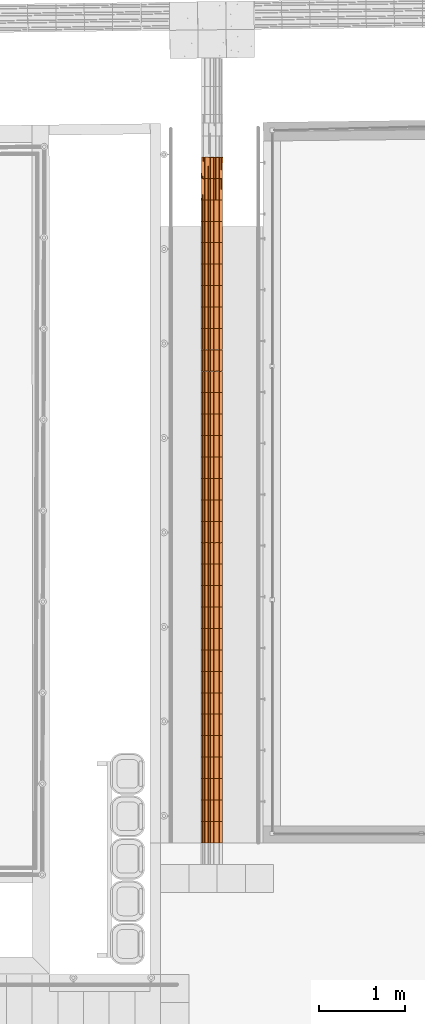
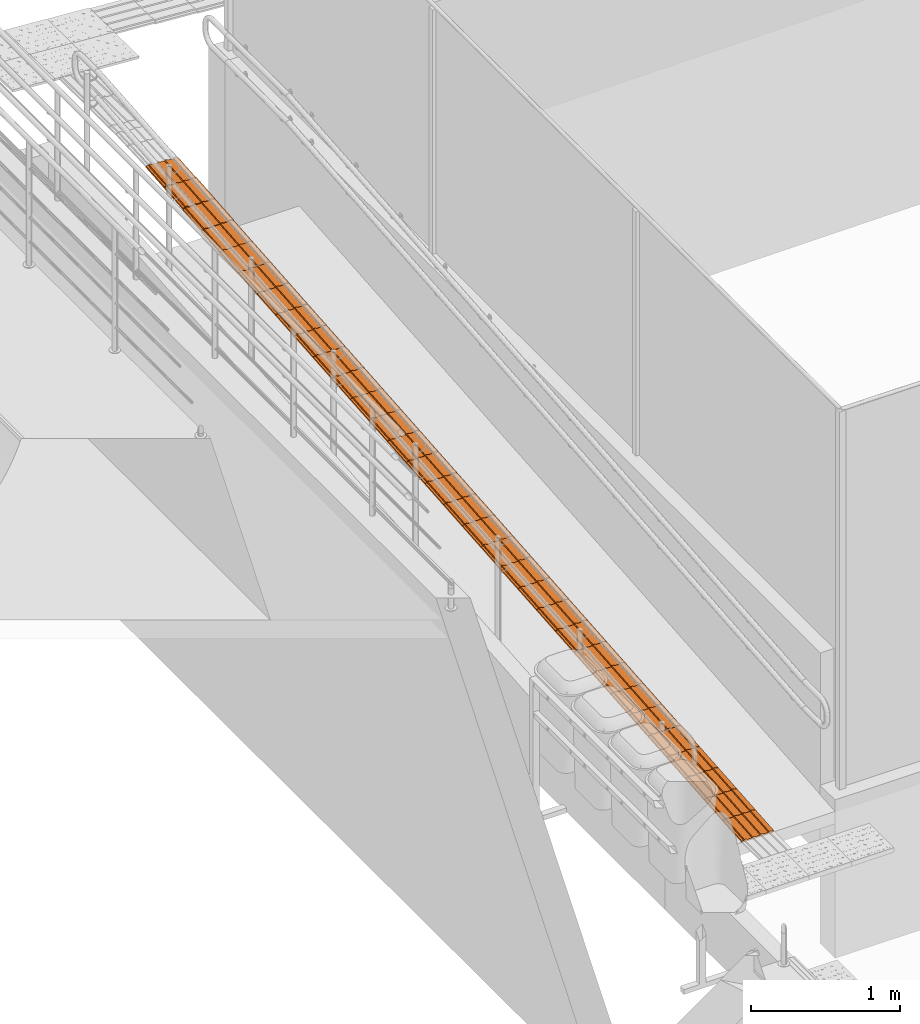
# One storey, part 177 of 237: 32 proxies.
"""IFC2X3 building model written with IfcOpenShell, lengths in millimetres."""

from ifc_helpers import new_model, entity, si_unit, converted_unit, derived_unit, money_unit, direction, frame, origin_with_axes, place, context, subcontext, project, spatial, faceted_brep, source, transform, mapped, type_object, element, save


model = new_model("IFC2X3")

# Units and contexts
model_context = context("Model", 3, precision=0.01, world=origin_with_axes(), true_north=direction((0.0, 1.0)))
body_context = subcontext(model_context, "Body", "Model", "MODEL_VIEW")
ifc_project = project(units=[si_unit("LENGTHUNIT", "METRE", prefix="MILLI"), si_unit("AREAUNIT", "SQUARE_METRE"), si_unit("VOLUMEUNIT", "CUBIC_METRE"), converted_unit("PLANEANGLEUNIT", "DEGREE", entity("IfcPlaneAngleMeasure", 0.0174532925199), si_unit("PLANEANGLEUNIT", "RADIAN"), dimensions=[0, 0, 0, 0, 0, 0, 0]), money_unit("USD"), converted_unit("TIMEUNIT", "Year", entity("IfcTimeMeasure", 31556926.0), si_unit("TIMEUNIT", "SECOND"), dimensions=[0, 0, 1, 0, 0, 0, 0]), si_unit("MASSUNIT", "GRAM", prefix="KILO"), si_unit("THERMODYNAMICTEMPERATUREUNIT", "DEGREE_CELSIUS"), si_unit("LUMINOUSINTENSITYUNIT", "LUMEN"), si_unit("ENERGYUNIT", "JOULE", prefix="MEGA"), derived_unit("THERMALCONDUCTANCEUNIT", [(si_unit("POWERUNIT", "WATT"), 1), (si_unit("LENGTHUNIT", "METRE"), -1), (si_unit("THERMODYNAMICTEMPERATUREUNIT", "KELVIN"), -1)]), derived_unit("SPECIFICHEATCAPACITYUNIT", [(si_unit("ENERGYUNIT", "JOULE"), 1), (si_unit("MASSUNIT", "GRAM", prefix="KILO"), -1), (si_unit("THERMODYNAMICTEMPERATUREUNIT", "KELVIN"), -1)]), derived_unit("MASSDENSITYUNIT", [(si_unit("MASSUNIT", "GRAM", prefix="KILO"), 1), (si_unit("VOLUMEUNIT", "CUBIC_METRE"), -1)])], contexts=[model_context])

# Site, building, storey
site_placement = place(None, origin_with_axes())
site = spatial("IfcSite", under=ifc_project, at=site_placement, Name="Local", CompositionType="ELEMENT")
building_placement = place(site_placement, origin_with_axes())
building = spatial("IfcBuilding", under=site, at=building_placement, Name="Construção", CompositionType="ELEMENT")
storey_placement = place(building_placement, origin_with_axes())
storey = spatial("IfcBuildingStorey", under=building, at=storey_placement, Name="Pavimento Térreo", CompositionType="ELEMENT", Elevation=0.0)

# Proxies
building_element_proxy_type = type_object("IfcBuildingElementProxyType", Name="FALTA", PredefinedType="NOTDEFINED")
shared_shape = source(origin_with_axes(), body_context, "Body", "Brep", [
    faceted_brep([(249.287764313, -99.3610078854, 19.28314138), (-0.245935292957, -99.3610078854, 4.02100649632), (-0.245935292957, -116.310160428, 4.02100649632), (249.287764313, -116.310160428, 19.28314138), (-0.652925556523, -95.1237197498, 10.6752384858), (248.880774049, -95.1237197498, 25.9373733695), (-0.652925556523, -78.1745672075, 10.6752384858), (-0.245935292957, -73.9372790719, 4.02100649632), (-0.245935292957, -35.8016858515, 4.02100649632), (-0.652925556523, -31.5643977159, 10.6752384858), (-0.652925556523, -14.6152451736, 10.6752384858), (-0.245935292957, -10.377957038, 4.02100649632), (-0.245935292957, 27.7576361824, 4.02100649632), (-0.652925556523, 31.994924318, 10.6752384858), (-0.652925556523, 48.9440768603, 10.6752384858), (-0.245935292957, 53.1813649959, 4.02100649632), (-0.245935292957, 91.3169582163, 4.02100649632), (-0.652925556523, 95.5542463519, 10.6752384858), (-0.652925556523, 112.503398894, 10.6752384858), (-0.245935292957, 116.74068703, 4.02100649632), (-0.245935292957, 133.689839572, 4.02100649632), (0.568045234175, 133.689839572, -9.28745748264), (0.568045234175, -116.310160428, -9.28745748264), (250.10174484, -116.310160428, 5.97467740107), (248.880774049, -78.1745672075, 25.9373733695), (250.10174484, 133.689839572, 5.97467740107), (249.287764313, 133.689839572, 19.28314138), (249.287764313, 116.74068703, 19.28314138), (248.880774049, 112.503398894, 25.9373733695), (248.880774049, 95.5542463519, 25.9373733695), (249.287764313, 91.3169582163, 19.28314138), (249.287764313, 53.1813649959, 19.28314138), (248.880774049, 48.9440768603, 25.9373733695), (248.880774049, 31.994924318, 25.9373733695), (249.287764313, 27.7576361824, 19.28314138), (249.287764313, -10.377957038, 19.28314138), (248.880774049, -14.6152451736, 25.9373733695), (248.880774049, -31.5643977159, 25.9373733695), (249.287764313, -35.8016858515, 19.28314138), (249.287764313, -73.9372790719, 19.28314138)], [[[0, 1, 2, 3]], [[4, 1, 0, 5]], [[6, 7, 8, 9, 10, 11, 12, 13, 14, 15, 16, 17, 18, 19, 20, 21, 22, 2, 1, 4]], [[2, 22, 23, 3]], [[24, 5, 0, 3, 23, 25, 26, 27, 28, 29, 30, 31, 32, 33, 34, 35, 36, 37, 38, 39]], [[6, 4, 5, 24]], [[7, 6, 24, 39]], [[38, 8, 7, 39]], [[9, 8, 38, 37]], [[10, 9, 37, 36]], [[10, 36, 35, 11]], [[11, 35, 34, 12]], [[13, 12, 34, 33]], [[14, 13, 33, 32]], [[15, 14, 32, 31]], [[15, 31, 30, 16]], [[17, 16, 30, 29]], [[18, 17, 29, 28]], [[19, 18, 28, 27]], [[20, 19, 27, 26]], [[20, 26, 25, 21]], [[22, 21, 25, 23]]]),
])
for number, where, z_axis, x_axis, name in (
    (1, (67571.980088, 32203.7978547, -3086.75660603), (0.0, -0.0220198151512, 0.999757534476), (0.0, 0.999757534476, 0.0220198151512), "Objeto-0055"),
    (2, (67571.980088, 29198.1732079, -3337.12511029), (0.0, -0.0220198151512, 0.999757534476), (0.0, 0.999757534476, 0.0220198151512), "Objeto-0055"),
    (3, (67571.980088, 32954.7601519, -3024.20145388), (0.0, -0.0220198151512, 0.999757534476), (0.0, 0.999757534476, 0.0220198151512), "Objeto-0055"),
    (4, (67571.980088, 32452.9349816, -3066.00348575), (0.0, -0.0220198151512, 0.999757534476), (0.0, 0.999757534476, 0.0220198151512), "Objeto-0055"),
    (5, (67571.980088, 32703.8475668, -3045.10246982), (0.0, -0.0220198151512, 0.999757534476), (0.0, 0.999757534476, 0.0220198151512), "Objeto-0055"),
    (6, (67571.980088, 30201.8235484, -3253.52104655), (0.0, -0.0220198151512, 0.999757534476), (0.0, 0.999757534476, 0.0220198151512), "Objeto-0055"),
    (7, (67571.980088, 30450.9606753, -3232.76792627), (0.0, -0.0220198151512, 0.999757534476), (0.0, 0.999757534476, 0.0220198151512), "Objeto-0055"),
    (8, (67571.980088, 31452.8355576, -3149.31175819), (0.0, -0.0220198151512, 0.999757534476), (0.0, 0.999757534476, 0.0220198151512), "Objeto-0055"),
    (9, (67571.980088, 31201.9229725, -3170.21277412), (0.0, -0.0220198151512, 0.999757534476), (0.0, 0.999757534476, 0.0220198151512), "Objeto-0055"),
    (10, (67571.980088, 31703.7481427, -3128.41074225), (0.0, -0.0220198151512, 0.999757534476), (0.0, 0.999757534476, 0.0220198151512), "Objeto-0055"),
    (11, (67571.980088, 28698.1234959, -3378.77924651), (0.0, -0.0220198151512, 0.999757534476), (0.0, 0.999757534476, 0.0220198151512), "Objeto-0055"),
    (12, (67571.980088, 29950.9109633, -3274.42206249), (0.0, -0.0220198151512, 0.999757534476), (0.0, 0.999757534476, 0.0220198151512), "Objeto-0055"),
    (13, (67571.980088, 29699.9983782, -3295.32307842), (0.0, -0.0220198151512, 0.999757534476), (0.0, 0.999757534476, 0.0220198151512), "Objeto-0055"),
    (14, (67571.980088, 31954.6607278, -3107.50972632), (0.0, -0.0220198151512, 0.999757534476), (0.0, 0.999757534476, 0.0220198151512), "Objeto-0055"),
    (15, (67571.980088, 30700.0978022, -3212.01480599), (0.0, -0.0220198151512, 0.999757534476), (0.0, 0.999757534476, 0.0220198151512), "Objeto-0055"),
    (16, (67571.980088, 28448.986369, -3399.53236679), (0.0, -0.0220198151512, 0.999757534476), (0.0, 0.999757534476, 0.0220198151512), "Objeto-0055"),
    (17, (67571.980088, 27696.2486137, -3462.23541459), (0.0, -0.0220198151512, 0.999757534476), (0.0, 0.999757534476, 0.0220198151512), "Objeto-0055"),
    (18, (67571.980088, 27194.4234434, -3504.03744646), (0.0, -0.0220198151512, 0.999757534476), (0.0, 0.999757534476, 0.0220198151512), "Objeto-0055"),
    (19, (67571.980088, 30951.0103873, -3191.11379005), (0.0, -0.0220198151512, 0.999757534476), (0.0, 0.999757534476, 0.0220198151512), "Objeto-0055"),
    (20, (67571.9615397, 34954.2119707, -2849.4501843), (0.0636897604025, -0.011418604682, 0.997904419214), (0.00324162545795, 0.999931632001, 0.0112349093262), "Objeto-0055"),
    (21, (67572.2922718, 34703.5878603, -2870.09088963), (0.0343059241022, -0.0220198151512, 0.999168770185), (0.00075559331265, 0.999757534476, 0.0220068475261), "Objeto-0055"),
    (22, (67571.980088, 34455.036232, -2895.39721795), (0.0, -0.0220198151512, 0.999757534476), (0.0, 0.999757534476, 0.0220198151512), "Objeto-0055"),
    (23, (67571.980088, 34205.772161, -2919.99216552), (0.0, -0.0220198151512, 0.999757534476), (0.0, 0.999757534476, 0.0220198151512), "Objeto-0055"),
    (24, (67571.980088, 27947.1611988, -3441.33439866), (0.0, -0.0220198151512, 0.999757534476), (0.0, 0.999757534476, 0.0220198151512), "Objeto-0055"),
    (25, (67571.980088, 28947.2606228, -3358.02612623), (0.0, -0.0220198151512, 0.999757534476), (0.0, 0.999757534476, 0.0220198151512), "Objeto-0055"),
    (26, (67571.980088, 28198.0737839, -3420.43338272), (0.0, -0.0220198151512, 0.999757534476), (0.0, 0.999757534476, 0.0220198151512), "Objeto-0055"),
    (27, (67571.980088, 33956.6350341, -2940.7452858), (0.0, -0.0220198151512, 0.999757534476), (0.0, 0.999757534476, 0.0220198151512), "Objeto-0055"),
    (28, (67571.980088, 33707.4979073, -2961.49840608), (0.0, -0.0220198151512, 0.999757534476), (0.0, 0.999757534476, 0.0220198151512), "Objeto-0055"),
    (29, (67571.980088, 33456.5853221, -2982.39942201), (0.0, -0.0220198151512, 0.999757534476), (0.0, 0.999757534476, 0.0220198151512), "Objeto-0055"),
    (30, (67571.980088, 33205.672737, -3003.30043795), (0.0, -0.0220198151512, 0.999757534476), (0.0, 0.999757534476, 0.0220198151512), "Objeto-0055"),
    (31, (67571.980088, 27445.3360285, -3483.13643053), (0.0, -0.0220198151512, 0.999757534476), (0.0, 0.999757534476, 0.0220198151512), "Objeto-0055"),
    (32, (67571.980088, 29449.0857931, -3316.22409436), (0.0, -0.0220198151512, 0.999757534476), (0.0, 0.999757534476, 0.0220198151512), "Objeto-0055"),
):
    element("IfcBuildingElementProxy", number, at=place(storey_placement, frame(where, z_axis=z_axis, x_axis=x_axis)), inside=storey, type_object=building_element_proxy_type, Name=name, context=body_context, shape_type="MappedRepresentation", body=[
        mapped(shared_shape, transform((0.0, 0.0, 0.0))),
    ])

save(model, "model.ifc")
